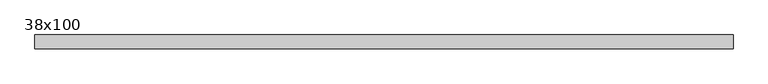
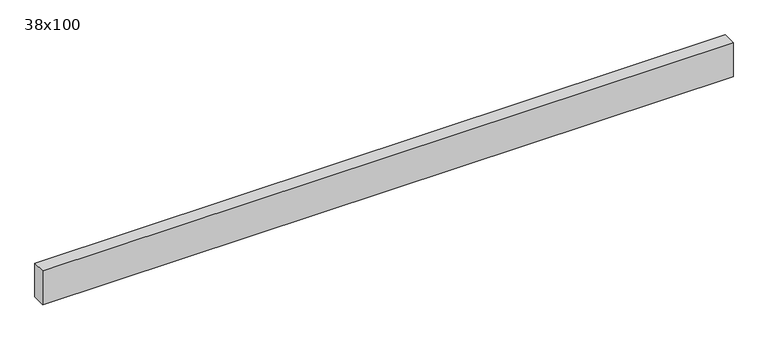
"""IFC4 building model written with IfcOpenShell, lengths in millimetres: beam geometry, Poutre - Bois de construction de dimensions courantes : 38x100."""

import ifcopenshell
import ifcopenshell.guid

model = None  # the IFC model being written
_history = None  # IfcOwnerHistory: only IFC2X3 demands one
_inside = {}  # id of a spatial element -> (the spatial element, [elements in it])
_under = {}  # id of a project, library or spatial element -> (it, [spatial elements below it])
_declared = {}  # id of a project -> (the project, [libraries it declares])
_typed = {}  # id of a type object -> (the type object, [elements of that type])
_made_of = {}  # id of a material, layer set ... -> (it, [elements and type objects made of it])


def new_model(schema):
    """Start an empty IFC model of exactly this schema.

    Asked for "IFC4X3", IfcOpenShell would pick the latest addendum, in which some entities
    have other attributes; the version numbers below select the first issue.
    IFC2X3 requires an IfcOwnerHistory on every rooted entity: one is made here for all.
    """
    global model, _history
    if schema == "IFC4X3":
        model = ifcopenshell.file(schema_version=(4, 3, 0, 0))
    else:
        model = ifcopenshell.file(schema=schema)
    _inside.clear()
    _under.clear()
    _declared.clear()
    _typed.clear()
    _made_of.clear()
    _history = None
    if model.schema == "IFC2X3":
        org = make("IfcOrganization", Name="unknown")
        user = make(
            "IfcPersonAndOrganization",
            ThePerson=make("IfcPerson", FamilyName="unknown"),
            TheOrganization=org,
        )
        app = make(
            "IfcApplication",
            ApplicationDeveloper=org,
            Version="unknown",
            ApplicationFullName="unknown",
            ApplicationIdentifier="unknown",
        )
        _history = make(
            "IfcOwnerHistory",
            OwningUser=user,
            OwningApplication=app,
            ChangeAction="ADDED",
            CreationDate=0,
        )
    return model


def make(cls, **values):
    """One entity of the class cls with the attributes given. An attribute that is None is left unset."""
    return model.create_entity(
        cls, **{name: value for name, value in values.items() if value is not None}
    )


def rooted(cls, **values):
    """An entity with a GlobalId (a new one), such as an element, a storey or a relation."""
    return make(cls, GlobalId=ifcopenshell.guid.new(), OwnerHistory=_history, **values)


def si_unit(unit_type, name, prefix=None):
    """IfcSIUnit, for example si_unit("LENGTHUNIT", "METRE", prefix="MILLI")."""
    return make("IfcSIUnit", UnitType=unit_type, Prefix=prefix, Name=name)


def assignment(units):
    """IfcUnitAssignment: the units of a project."""
    return None if units is None else make("IfcUnitAssignment", Units=units)


def point(xyz):
    """IfcCartesianPoint."""
    return None if xyz is None else make("IfcCartesianPoint", Coordinates=xyz)


def direction(xyz):
    """IfcDirection."""
    return None if xyz is None else make("IfcDirection", DirectionRatios=xyz)


def frame(location, z_axis=None, x_axis=None):
    """IfcAxis2Placement3D, a coordinate frame: its origin and axes. An axis left out is left unset."""
    return make(
        "IfcAxis2Placement3D",
        Location=point(location),
        Axis=direction(z_axis),
        RefDirection=direction(x_axis),
    )


def origin():
    """The frame at (0, 0, 0) with its axes left unset."""
    return frame((0.0, 0.0, 0.0))


def place(relative_to, where):
    """IfcLocalPlacement: puts the frame where relative to a parent placement (None: the world)."""
    return make(
        "IfcLocalPlacement", PlacementRelTo=relative_to, RelativePlacement=where
    )


def context(
    kind, dimensions, precision=None, world=None, true_north=None, identifier=None
):
    """IfcGeometricRepresentationContext, for example the 3D "Model" context."""
    return make(
        "IfcGeometricRepresentationContext",
        ContextIdentifier=identifier,
        ContextType=kind,
        CoordinateSpaceDimension=dimensions,
        Precision=precision,
        WorldCoordinateSystem=world,
        TrueNorth=true_north,
    )


def project(units=None, contexts=None):
    """IfcProject with its units and contexts."""
    return rooted(
        "IfcProject",
        Name="project",
        RepresentationContexts=contexts,
        UnitsInContext=assignment(units),
    )


def spatial(cls, under=None, at=None, **own):
    """A site, building, storey or space (cls), placed at a placement, below another one or the project."""
    s = rooted(cls, ObjectPlacement=at, **own)
    if under is not None:
        _under.setdefault(under.id(), (under, []))[1].append(s)
    return s


def polyline(points):
    """IfcPolyline through the points."""
    return make("IfcPolyline", Points=[point(p) for p in points])


def outline(outer, holes=None, kind="AREA"):
    """IfcArbitraryClosedProfileDef: a profile drawn as a closed curve; with holes, ...WithVoids."""
    if holes is None:
        return make("IfcArbitraryClosedProfileDef", ProfileType=kind, OuterCurve=outer)
    return make(
        "IfcArbitraryProfileDefWithVoids",
        ProfileType=kind,
        OuterCurve=outer,
        InnerCurves=holes,
    )


def extrude(swept, where, along, depth):
    """IfcExtrudedAreaSolid: the profile swept, set in the frame where, extruded along a direction by depth."""
    return make(
        "IfcExtrudedAreaSolid",
        SweptArea=swept,
        Position=where,
        ExtrudedDirection=direction(along),
        Depth=depth,
    )


def shape(context_of_items, identifier, shape_type, items):
    """IfcShapeRepresentation: the items that make up one representation, for example the "Body"."""
    return make(
        "IfcShapeRepresentation",
        ContextOfItems=context_of_items,
        RepresentationIdentifier=identifier,
        RepresentationType=shape_type,
        Items=items,
    )


def source(mapping_origin, context_of_items, identifier, shape_type, items):
    """IfcRepresentationMap: a shape defined once, which mapped items show again and again."""
    return make(
        "IfcRepresentationMap",
        MappingOrigin=mapping_origin,
        MappedRepresentation=shape(context_of_items, identifier, shape_type, items),
    )


def transform(
    local_origin,
    x_axis=None,
    y_axis=None,
    z_axis=None,
    scale=None,
    scale2=None,
    scale3=None,
    uniform=True,
):
    """IfcCartesianTransformationOperator3D, or its non-uniform kind. x_axis, y_axis, z_axis: its Axis1, 2, 3."""
    if uniform:
        return make(
            "IfcCartesianTransformationOperator3D",
            Axis1=direction(x_axis),
            Axis2=direction(y_axis),
            LocalOrigin=point(local_origin),
            Scale=scale,
            Axis3=direction(z_axis),
        )
    return make(
        "IfcCartesianTransformationOperator3DnonUniform",
        Axis1=direction(x_axis),
        Axis2=direction(y_axis),
        LocalOrigin=point(local_origin),
        Scale=scale,
        Axis3=direction(z_axis),
        Scale2=scale2,
        Scale3=scale3,
    )


def mapped(mapping_source, mapping_target):
    """IfcMappedItem: shows the shape of a source again, moved by a transform."""
    return make(
        "IfcMappedItem", MappingSource=mapping_source, MappingTarget=mapping_target
    )


def made_of(thing, what):
    """Note that an element or type object is made of a material, layer set ...; save() writes the relation."""
    if what is not None:
        _made_of.setdefault(what.id(), (what, []))[1].append(thing)
    return thing


def element(
    cls,
    number,
    at=None,
    inside=None,
    cuts=None,
    type_object=None,
    material=None,
    context=None,
    identifier="Body",
    shape_type=None,
    held_by="IfcProductDefinitionShape",
    body=None,
    shapes=None,
    **own,
):
    """One element of the class cls, such as IfcWall. Its Tag is "e" and its number.

    at: its placement. inside: the storey or other place that contains it. cuts: it is an
    opening in that element (IfcRelVoidsElement). A single representation is given by context,
    identifier, shape_type and body (its items); several are given by shapes. held_by: the class
    of the entity that holds the representations. save() writes the other relations.
    """
    e = rooted(cls, Tag="e%d" % number, ObjectPlacement=at, **own)
    if body is not None:
        shapes = [shape(context, identifier, shape_type, body)]
    if shapes is not None:
        e.Representation = make(held_by, Representations=shapes)
    if inside is not None:
        _inside.setdefault(inside.id(), (inside, []))[1].append(e)
    if cuts is not None:
        rooted(
            "IfcRelVoidsElement", RelatingBuildingElement=cuts, RelatedOpeningElement=e
        )
    if type_object is not None:
        _typed.setdefault(type_object.id(), (type_object, []))[1].append(e)
    return made_of(e, material)


def aggregate(whole, parts):
    """IfcRelAggregates: a whole, such as a stair, and the parts it consists of."""
    return rooted("IfcRelAggregates", RelatingObject=whole, RelatedObjects=parts)


def save(model, path):
    """Write the relations noted so far, then the file.

    IfcRelAggregates (storeys below a building ...), IfcRelContainedInSpatialStructure (elements
    in a storey), IfcRelDefinesByType, IfcRelAssociatesMaterial and IfcRelDeclares: one each for
    every whole, place, type object, material and project.
    """
    for whole, parts in _under.values():
        aggregate(whole, parts)
    for where, things in _inside.values():
        rooted(
            "IfcRelContainedInSpatialStructure",
            RelatedElements=things,
            RelatingStructure=where,
        )
    for kind, things in _typed.values():
        rooted("IfcRelDefinesByType", RelatedObjects=things, RelatingType=kind)
    for what, things in _made_of.values():
        rooted("IfcRelAssociatesMaterial", RelatedObjects=things, RelatingMaterial=what)
    for by, libraries in _declared.values():
        rooted("IfcRelDeclares", RelatingContext=by, RelatedDefinitions=libraries)
    model.write(path)


def beam_38x100_fa64b2be(model_context):
    return source(origin(), model_context, "Body", "SweptSolid", [
        extrude(outline(polyline([(944.0, 19.05), (944.0, -19.05), (-988.0, -19.05), (-988.0, 19.05), (944.0, 19.05)])), frame((0.0, 0.0, -50.0), z_axis=(0.0, 0.0, 1.0), x_axis=(1.0, 0.0, 0.0)), (0.0, 0.0, 1.0), 100.0),
    ])


if __name__ == "__main__":
    model = new_model("IFC4")
    model_context = context("Model", 3, world=origin())
    ifc_project = project(units=[si_unit("LENGTHUNIT", "METRE", prefix="MILLI")], contexts=[model_context])
    site = spatial("IfcSite", under=ifc_project)
    building = spatial("IfcBuilding", under=site)
    placement = place(None, origin())
    beam_38x100_shape = beam_38x100_fa64b2be(model_context)
    element("IfcBeam", 1, ObjectType="Poutre - Bois de construction de dimensions courantes : 38x100", at=placement, inside=building, context=model_context, shape_type="MappedRepresentation", body=[
        mapped(beam_38x100_shape, transform((0.0, 0.0, 0.0), x_axis=(1.0, 0.0, 0.0), y_axis=(0.0, 1.0, 0.0), z_axis=(0.0, 0.0, 1.0))),
    ])
    save(model, "model.ifc")
